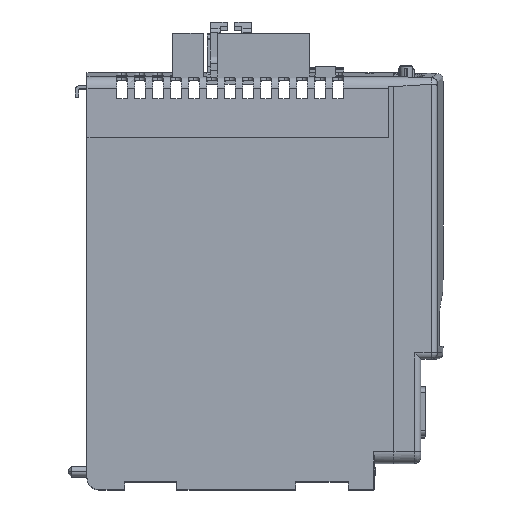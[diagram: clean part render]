
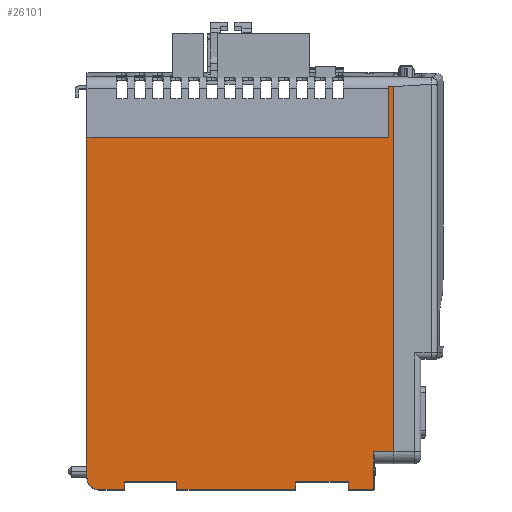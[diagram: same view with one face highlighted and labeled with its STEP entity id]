
A CAD part, top view. The second image highlights one B-rep face of the part: STEP entity #26101.
In plain terms, the highlighted planar face has unit normal (0, 0, 1).
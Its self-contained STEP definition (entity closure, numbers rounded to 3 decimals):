
#8671 = ORIENTED_EDGE ( 'NONE', *, *, #81520, .F. ) ;
#8673 = ORIENTED_EDGE ( 'NONE', *, *, #81521, .T. ) ;
#8674 = ORIENTED_EDGE ( 'NONE', *, *, #81519, .T. ) ;
#8675 = ORIENTED_EDGE ( 'NONE', *, *, #81499, .F. ) ;
#8676 = ORIENTED_EDGE ( 'NONE', *, *, #81522, .T. ) ;
#8677 = ORIENTED_EDGE ( 'NONE', *, *, #81524, .T. ) ;
#8678 = ORIENTED_EDGE ( 'NONE', *, *, #81523, .F. ) ;
#8679 = ORIENTED_EDGE ( 'NONE', *, *, #81525, .F. ) ;
#8680 = ORIENTED_EDGE ( 'NONE', *, *, #81526, .T. ) ;
#8681 = ORIENTED_EDGE ( 'NONE', *, *, #81527, .F. ) ;
#8682 = ORIENTED_EDGE ( 'NONE', *, *, #81528, .T. ) ;
#8683 = ORIENTED_EDGE ( 'NONE', *, *, #81529, .T. ) ;
#8684 = ORIENTED_EDGE ( 'NONE', *, *, #81530, .T. ) ;
#8685 = ORIENTED_EDGE ( 'NONE', *, *, #81531, .F. ) ;
#8686 = ORIENTED_EDGE ( 'NONE', *, *, #81532, .T. ) ;
#8687 = ORIENTED_EDGE ( 'NONE', *, *, #81533, .T. ) ;
#8688 = ORIENTED_EDGE ( 'NONE', *, *, #81534, .T. ) ;
#10500 = EDGE_LOOP ( 'NONE', ( #8671, #8674, #8673, #8675, #8676, #8678, #8677, #8679, #8680, #8681, #8682, #8683, #8684, #8685, #8686, #8687, #8688 ) ) ;
#24081 = VERTEX_POINT ( 'NONE', #68698 ) ;
#24082 = VERTEX_POINT ( 'NONE', #68699 ) ;
#24100 = VERTEX_POINT ( 'NONE', #68717 ) ;
#24101 = VERTEX_POINT ( 'NONE', #68718 ) ;
#24102 = VERTEX_POINT ( 'NONE', #68719 ) ;
#24103 = VERTEX_POINT ( 'NONE', #68720 ) ;
#24104 = VERTEX_POINT ( 'NONE', #68721 ) ;
#24105 = VERTEX_POINT ( 'NONE', #68722 ) ;
#24106 = VERTEX_POINT ( 'NONE', #68723 ) ;
#24107 = VERTEX_POINT ( 'NONE', #68724 ) ;
#24108 = VERTEX_POINT ( 'NONE', #68725 ) ;
#24109 = VERTEX_POINT ( 'NONE', #68726 ) ;
#24110 = VERTEX_POINT ( 'NONE', #68727 ) ;
#24111 = VERTEX_POINT ( 'NONE', #68728 ) ;
#24112 = VERTEX_POINT ( 'NONE', #68729 ) ;
#24113 = VERTEX_POINT ( 'NONE', #68730 ) ;
#24114 = VERTEX_POINT ( 'NONE', #68731 ) ;
#26101 = ADVANCED_FACE ( 'NONE', ( #67473 ), #77934, .F. ) ;
#29564 = VECTOR ( 'NONE', #44130, 1000. ) ;
#29583 = VECTOR ( 'NONE', #44191, 1000. ) ;
#29584 = VECTOR ( 'NONE', #44194, 1000. ) ;
#29585 = VECTOR ( 'NONE', #44197, 1000. ) ;
#29586 = VECTOR ( 'NONE', #44200, 1000. ) ;
#29587 = AXIS2_PLACEMENT_3D ( 'NONE', #44185, #44210, #44211 ) ;
#29588 = VECTOR ( 'NONE', #44203, 1000. ) ;
#29589 = VECTOR ( 'NONE', #44206, 1000. ) ;
#29590 = VECTOR ( 'NONE', #44209, 1000. ) ;
#29591 = VECTOR ( 'NONE', #44215, 1000. ) ;
#29592 = VECTOR ( 'NONE', #44218, 1000. ) ;
#29593 = VECTOR ( 'NONE', #44221, 1000. ) ;
#29594 = VECTOR ( 'NONE', #44224, 1000. ) ;
#29595 = VECTOR ( 'NONE', #44227, 1000. ) ;
#29596 = VECTOR ( 'NONE', #44230, 1000. ) ;
#29597 = VECTOR ( 'NONE', #44233, 1000. ) ;
#29598 = VECTOR ( 'NONE', #44236, 1000. ) ;
#41039 = CIRCLE ( 'NONE', #29587, 5.791 ) ;
#44128 = LINE ( 'NONE', #44129, #29564 ) ;
#44129 = CARTESIAN_POINT ( 'NONE',  ( 63.565, 0., 59.671 ) ) ;
#44130 = DIRECTION ( 'NONE',  ( 0., -1., 0. ) ) ;
#44185 = CARTESIAN_POINT ( 'NONE',  ( -82.209, -95.942, 59.671 ) ) ;
#44189 = LINE ( 'NONE', #44190, #29583 ) ;
#44190 = CARTESIAN_POINT ( 'NONE',  ( 53.354, -83.109, 59.671 ) ) ;
#44191 = DIRECTION ( 'NONE',  ( 0., 1., 0. ) ) ;
#44192 = LINE ( 'NONE', #44193, #29584 ) ;
#44193 = CARTESIAN_POINT ( 'NONE',  ( 328.959, -101.733, 59.671 ) ) ;
#44194 = DIRECTION ( 'NONE',  ( -1., 0., 0. ) ) ;
#44195 = LINE ( 'NONE', #44196, #29585 ) ;
#44196 = CARTESIAN_POINT ( 'NONE',  ( 63.565, -83.109, 59.671 ) ) ;
#44197 = DIRECTION ( 'NONE',  ( 1., 0., 0. ) ) ;
#44198 = LINE ( 'NONE', #44199, #29586 ) ;
#44199 = CARTESIAN_POINT ( 'NONE',  ( 63.565, 97.262, 59.671 ) ) ;
#44200 = DIRECTION ( 'NONE',  ( -1., 0., 0. ) ) ;
#44201 = LINE ( 'NONE', #44202, #29588 ) ;
#44202 = CARTESIAN_POINT ( 'NONE',  ( 61.025, 72.318, 59.671 ) ) ;
#44203 = DIRECTION ( 'NONE',  ( 0., 1., 0. ) ) ;
#44204 = LINE ( 'NONE', #44205, #29589 ) ;
#44205 = CARTESIAN_POINT ( 'NONE',  ( 93.232, 72.318, 59.671 ) ) ;
#44206 = DIRECTION ( 'NONE',  ( -1., 0., 0. ) ) ;
#44207 = LINE ( 'NONE', #44208, #29590 ) ;
#44208 = CARTESIAN_POINT ( 'NONE',  ( -88., 101.981, 59.671 ) ) ;
#44209 = DIRECTION ( 'NONE',  ( 0., 1., 0. ) ) ;
#44210 = DIRECTION ( 'NONE',  ( 0., 0., 1. ) ) ;
#44211 = DIRECTION ( 'NONE',  ( 0., 1., 0. ) ) ;
#44213 = LINE ( 'NONE', #44214, #29591 ) ;
#44214 = CARTESIAN_POINT ( 'NONE',  ( 328.959, -101.733, 59.671 ) ) ;
#44215 = DIRECTION ( 'NONE',  ( -1., 0., 0. ) ) ;
#44216 = LINE ( 'NONE', #44217, #29592 ) ;
#44217 = CARTESIAN_POINT ( 'NONE',  ( -69.433, -101.733, 59.671 ) ) ;
#44218 = DIRECTION ( 'NONE',  ( 0., 1., 0. ) ) ;
#44219 = LINE ( 'NONE', #44220, #29593 ) ;
#44220 = CARTESIAN_POINT ( 'NONE',  ( -43.601, -97.821, 59.671 ) ) ;
#44221 = DIRECTION ( 'NONE',  ( 1., 0., 0. ) ) ;
#44222 = LINE ( 'NONE', #44223, #29594 ) ;
#44223 = CARTESIAN_POINT ( 'NONE',  ( -43.601, -101.733, 59.671 ) ) ;
#44224 = DIRECTION ( 'NONE',  ( 0., -1., 0. ) ) ;
#44225 = LINE ( 'NONE', #44226, #29595 ) ;
#44226 = CARTESIAN_POINT ( 'NONE',  ( 328.959, -101.733, 59.671 ) ) ;
#44227 = DIRECTION ( 'NONE',  ( -1., 0., 0. ) ) ;
#44228 = LINE ( 'NONE', #44229, #29596 ) ;
#44229 = CARTESIAN_POINT ( 'NONE',  ( 15.102, -101.733, 59.671 ) ) ;
#44230 = DIRECTION ( 'NONE',  ( 0., 1., 0. ) ) ;
#44231 = LINE ( 'NONE', #44232, #29597 ) ;
#44232 = CARTESIAN_POINT ( 'NONE',  ( 40.934, -97.821, 59.671 ) ) ;
#44233 = DIRECTION ( 'NONE',  ( 1., 0., 0. ) ) ;
#44234 = LINE ( 'NONE', #44235, #29598 ) ;
#44235 = CARTESIAN_POINT ( 'NONE',  ( 40.934, -101.733, 59.671 ) ) ;
#44236 = DIRECTION ( 'NONE',  ( 0., -1., 0. ) ) ;
#67473 = FACE_OUTER_BOUND ( 'NONE', #10500, .T. ) ;
#67476 = AXIS2_PLACEMENT_3D ( 'NONE', #77935, #77936, #77937 ) ;
#68698 = CARTESIAN_POINT ( 'NONE',  ( 63.565, 97.262, 59.671 ) ) ;
#68699 = CARTESIAN_POINT ( 'NONE',  ( 63.565, -83.109, 59.671 ) ) ;
#68717 = CARTESIAN_POINT ( 'NONE',  ( 53.354, -101.733, 59.671 ) ) ;
#68718 = CARTESIAN_POINT ( 'NONE',  ( 40.934, -101.733, 59.671 ) ) ;
#68719 = CARTESIAN_POINT ( 'NONE',  ( 53.354, -83.109, 59.671 ) ) ;
#68720 = CARTESIAN_POINT ( 'NONE',  ( 61.025, 97.262, 59.671 ) ) ;
#68721 = CARTESIAN_POINT ( 'NONE',  ( 61.025, 72.318, 59.671 ) ) ;
#68722 = CARTESIAN_POINT ( 'NONE',  ( -88., 72.318, 59.671 ) ) ;
#68723 = CARTESIAN_POINT ( 'NONE',  ( -88., -95.942, 59.671 ) ) ;
#68724 = CARTESIAN_POINT ( 'NONE',  ( -82.209, -101.733, 59.671 ) ) ;
#68725 = CARTESIAN_POINT ( 'NONE',  ( -69.433, -101.733, 59.671 ) ) ;
#68726 = CARTESIAN_POINT ( 'NONE',  ( -69.433, -97.821, 59.671 ) ) ;
#68727 = CARTESIAN_POINT ( 'NONE',  ( -43.601, -97.821, 59.671 ) ) ;
#68728 = CARTESIAN_POINT ( 'NONE',  ( -43.601, -101.733, 59.671 ) ) ;
#68729 = CARTESIAN_POINT ( 'NONE',  ( 15.102, -101.733, 59.671 ) ) ;
#68730 = CARTESIAN_POINT ( 'NONE',  ( 15.102, -97.821, 59.671 ) ) ;
#68731 = CARTESIAN_POINT ( 'NONE',  ( 40.934, -97.821, 59.671 ) ) ;
#77934 = PLANE ( 'NONE',  #67476 ) ;
#77935 = CARTESIAN_POINT ( 'NONE',  ( 328.959, 101.981, 59.671 ) ) ;
#77936 = DIRECTION ( 'NONE',  ( 0., 0., -1. ) ) ;
#77937 = DIRECTION ( 'NONE',  ( 0., 1., 0. ) ) ;
#81499 = EDGE_CURVE ( 'NONE', #24081, #24082, #44128, .T. ) ;
#81519 = EDGE_CURVE ( 'NONE', #24100, #24102, #44189, .T. ) ;
#81520 = EDGE_CURVE ( 'NONE', #24100, #24101, #44192, .T. ) ;
#81521 = EDGE_CURVE ( 'NONE', #24102, #24082, #44195, .T. ) ;
#81522 = EDGE_CURVE ( 'NONE', #24081, #24103, #44198, .T. ) ;
#81523 = EDGE_CURVE ( 'NONE', #24104, #24103, #44201, .T. ) ;
#81524 = EDGE_CURVE ( 'NONE', #24104, #24105, #44204, .T. ) ;
#81525 = EDGE_CURVE ( 'NONE', #24106, #24105, #44207, .T. ) ;
#81526 = EDGE_CURVE ( 'NONE', #24106, #24107, #41039, .T. ) ;
#81527 = EDGE_CURVE ( 'NONE', #24108, #24107, #44213, .T. ) ;
#81528 = EDGE_CURVE ( 'NONE', #24108, #24109, #44216, .T. ) ;
#81529 = EDGE_CURVE ( 'NONE', #24109, #24110, #44219, .T. ) ;
#81530 = EDGE_CURVE ( 'NONE', #24110, #24111, #44222, .T. ) ;
#81531 = EDGE_CURVE ( 'NONE', #24112, #24111, #44225, .T. ) ;
#81532 = EDGE_CURVE ( 'NONE', #24112, #24113, #44228, .T. ) ;
#81533 = EDGE_CURVE ( 'NONE', #24113, #24114, #44231, .T. ) ;
#81534 = EDGE_CURVE ( 'NONE', #24114, #24101, #44234, .T. ) ;
